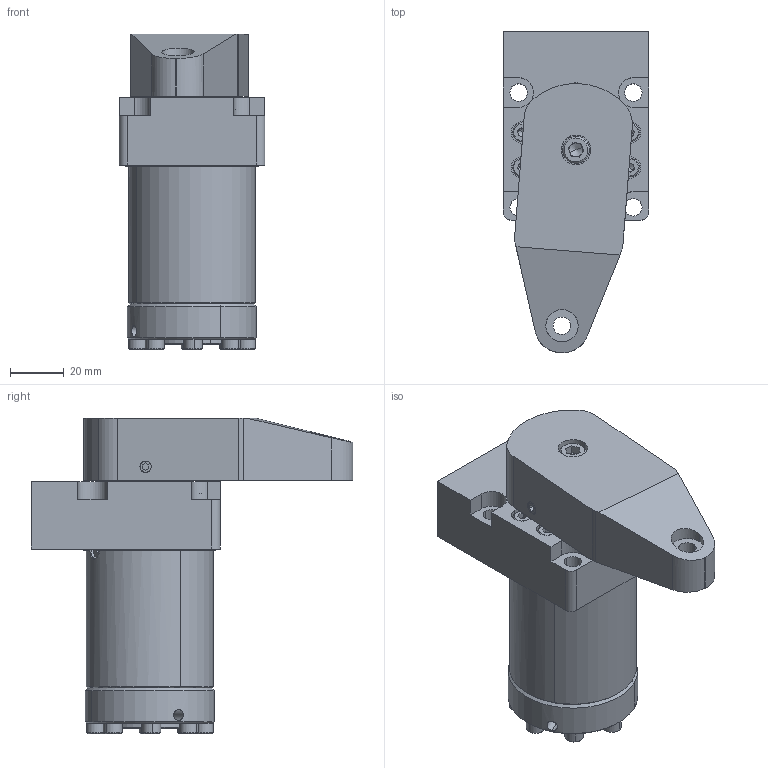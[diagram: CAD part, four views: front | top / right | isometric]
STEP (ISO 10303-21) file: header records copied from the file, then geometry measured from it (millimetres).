
FILE_DESCRIPTION (( 'STEP AP214' ), '1' );
FILE_NAME ('HSU_22.STEP', '2022-09-18T10:08:31', ( '' ), ( '' ), 'SwSTEP 2.0', 'SolidWorks 2021', '' );
FILE_SCHEMA (( 'AUTOMOTIVE_DESIGN' ));
Length unit declared in the file: millimetre
Products named in the file (13): socket set screw cone point_am_B18.3.6M - M5 x 0.8 x 5 Hex Socket Cone Pt. SS --N; K06-25X33_6X5_3X7; HSUR_32_ARKA_KAPAK_WEB; socket head cap screw_am_B18.3.1M - 6 x 1.0 x 25 Hex SHCS -- 25NHX; socket head cap screw_am_B18.3.1M - 4 x 0.7 x 16 Hex SHCS -- 16NHX; socket set screw cone point_am_B18.3.6M - M4 x 0.7 x 5 Hex Socket Cone Pt. SS --N; P嵱; HSUR_32_USTPABUC1_WEB; HSU_22; HSUR_32_KAPAK_WEB; HSUR_32_BORU_WEB; HSUR_12_KANALLI_M尳; 25_K_MIL_HSUR_WEB
Assembly tree (28 placements, depth 2):
  HSU_22
    HSUR_32_BORU_WEB
    HSUR_32_KAPAK_WEB
    HSUR_32_ARKA_KAPAK_WEB
    HSUR_12_KANALLI_M尳
    25_K_MIL_HSUR_WEB
    socket head cap screw_am_B18.3.1M - 4 x 0.7 x 16 Hex SHCS -- 16NHX  x16
    K06-25X33_6X5_3X7
    HSUR_32_USTPABUC1_WEB
    P嵱
    socket set screw cone point_am_B18.3.6M - M4 x 0.7 x 5 Hex Socket Cone Pt. SS --N  x2
    socket head cap screw_am_B18.3.1M - 6 x 1.0 x 25 Hex SHCS -- 25NHX
    socket set screw cone point_am_B18.3.6M - M5 x 0.8 x 5 Hex Socket Cone Pt. SS --N
Bounding box: 54 x 119.21 x 117 mm (x, y, z)
Volume: 246619.5 mm3; surface area: 83880.6 mm2
Topology: 28 solids, 28 shells, 1000 faces, 2293 edges, 1353 vertices
Faces by surface type: plane 386, cylinder 323, cone 224, torus 38, bspline 25, sphere 4
Entity records: 20611 total; most frequent: CARTESIAN_POINT 5698, DIRECTION 2976, ORIENTED_EDGE 2682, EDGE_CURVE 1341, AXIS2_PLACEMENT_3D 1193, VERTEX_POINT 837, EDGE_LOOP 712, CIRCLE 607
